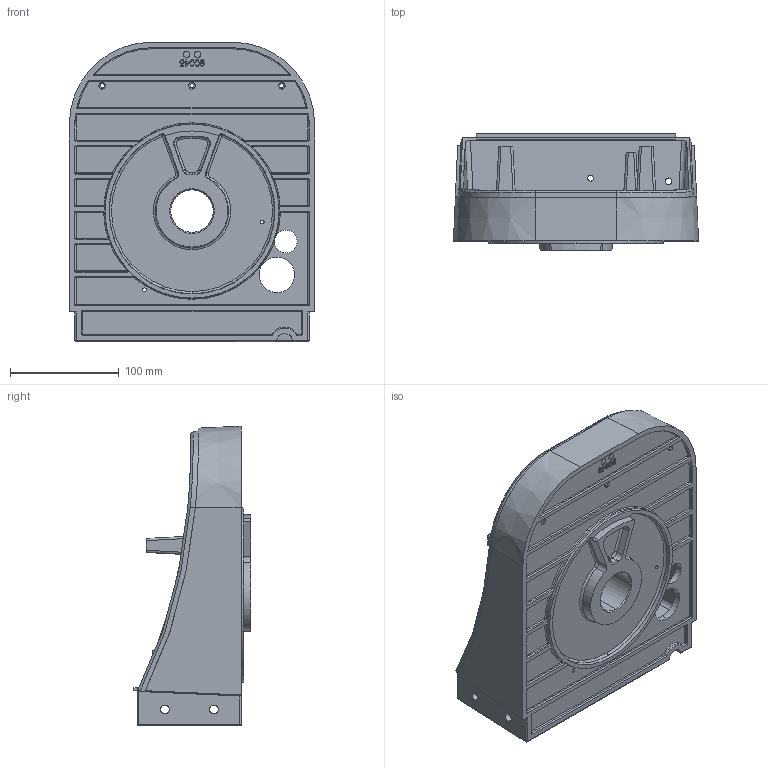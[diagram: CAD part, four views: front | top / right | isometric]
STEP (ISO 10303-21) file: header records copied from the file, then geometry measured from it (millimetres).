
FILE_DESCRIPTION (( 'STEP AP214' ), '1' );
FILE_NAME ('10028V000_Grundgehäuse_Index_6.STEP', '2014-11-19T13:05:19', ( 'Admin' ), ( '' ), 'SwSTEP 2.0', 'SolidWorks 2014', '' );
FILE_SCHEMA (( 'AUTOMOTIVE_DESIGN' ));
Length unit declared in the file: millimetre
Products named in the file (1): 10028V000_Grundgehäuse_Index_6
Bounding box: 225 x 107.8 x 275 mm (x, y, z)
Volume: 1131311.9 mm3; surface area: 294580.9 mm2
Topology: 1 solids, 1 shells, 809 faces, 2076 edges, 1224 vertices
Faces by surface type: cylinder 242, plane 196, bspline 186, cone 73, torus 58, sphere 54
Entity records: 32418 total; most frequent: CARTESIAN_POINT 14975, ORIENTED_EDGE 4004, DIRECTION 3137, EDGE_CURVE 2002, VERTEX_POINT 1224, AXIS2_PLACEMENT_3D 1194, EDGE_LOOP 868, ADVANCED_FACE 809
